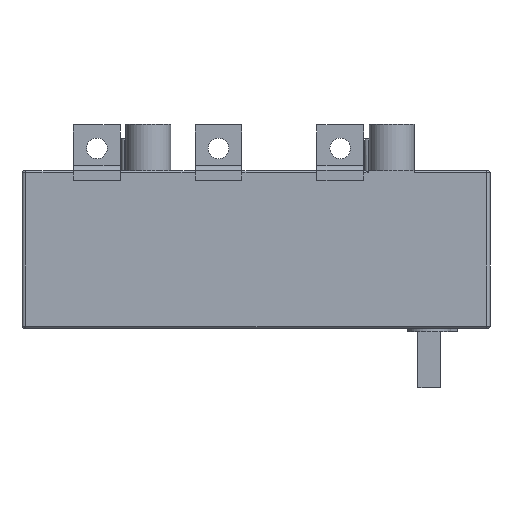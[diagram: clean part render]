
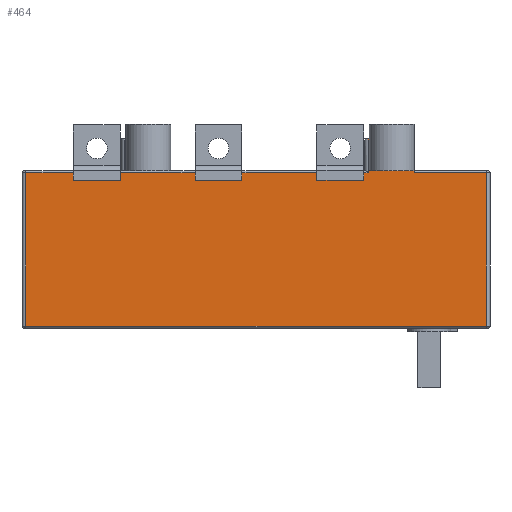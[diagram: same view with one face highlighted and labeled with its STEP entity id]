
A CAD part, front view. The second image highlights one B-rep face of the part: STEP entity #464.
In plain terms, the highlighted planar face has unit normal (0, -1, 0).
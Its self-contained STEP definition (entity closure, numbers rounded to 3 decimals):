
#267=FACE_OUTER_BOUND('',#1573,.T.);
#464=ADVANCED_FACE('',(#267),#565,.T.);
#565=PLANE('',#4003);
#566=LINE('',#5096,#863);
#573=LINE('',#5114,#870);
#575=LINE('',#5120,#872);
#593=LINE('',#5178,#890);
#600=LINE('',#5196,#897);
#602=LINE('',#5205,#899);
#620=LINE('',#5260,#917);
#627=LINE('',#5278,#924);
#629=LINE('',#5287,#926);
#745=LINE('',#5727,#1042);
#754=LINE('',#5818,#1051);
#759=LINE('',#5835,#1056);
#760=LINE('',#5837,#1057);
#782=LINE('',#5961,#1079);
#789=LINE('',#6010,#1086);
#821=LINE('',#6110,#1118);
#827=LINE('',#6122,#1124);
#837=LINE('',#6142,#1134);
#856=LINE('',#6183,#1153);
#858=LINE('',#6187,#1155);
#861=LINE('',#6193,#1158);
#862=LINE('',#6195,#1159);
#863=VECTOR('',#4010,1.);
#870=VECTOR('',#4025,1.);
#872=VECTOR('',#4031,1.);
#890=VECTOR('',#4087,1.);
#897=VECTOR('',#4102,1.);
#899=VECTOR('',#4110,1.);
#917=VECTOR('',#4164,1.);
#924=VECTOR('',#4179,1.);
#926=VECTOR('',#4187,1.);
#1042=VECTOR('',#4625,1.);
#1051=VECTOR('',#4690,1.);
#1056=VECTOR('',#4713,1.);
#1057=VECTOR('',#4716,1.);
#1079=VECTOR('',#4854,1.);
#1086=VECTOR('',#4875,1.);
#1118=VECTOR('',#4975,1.);
#1124=VECTOR('',#4987,1.);
#1134=VECTOR('',#5009,1.);
#1153=VECTOR('',#5064,1.);
#1155=VECTOR('',#5070,1.);
#1158=VECTOR('',#5079,1.);
#1159=VECTOR('',#5082,1.);
#1573=EDGE_LOOP('',(#2546,#2547,#2548,#2549,#2550,#2551,#2552,#2553,#2554,
#2555,#2556,#2557,#2558,#2559,#2560,#2561,#2562,#2563,#2564,#2565,#2566,
#2567));
#2546=ORIENTED_EDGE('',*,*,#2917,.T.);
#2547=ORIENTED_EDGE('',*,*,#2928,.T.);
#2548=ORIENTED_EDGE('',*,*,#3412,.T.);
#2549=ORIENTED_EDGE('',*,*,#2964,.F.);
#2550=ORIENTED_EDGE('',*,*,#2956,.F.);
#2551=ORIENTED_EDGE('',*,*,#2968,.F.);
#2552=ORIENTED_EDGE('',*,*,#3408,.T.);
#2553=ORIENTED_EDGE('',*,*,#3003,.F.);
#2554=ORIENTED_EDGE('',*,*,#2995,.F.);
#2555=ORIENTED_EDGE('',*,*,#3007,.F.);
#2556=ORIENTED_EDGE('',*,*,#3406,.T.);
#2557=ORIENTED_EDGE('',*,*,#3248,.F.);
#2558=ORIENTED_EDGE('',*,*,#3238,.T.);
#2559=ORIENTED_EDGE('',*,*,#3247,.T.);
#2560=ORIENTED_EDGE('',*,*,#3208,.T.);
#2561=ORIENTED_EDGE('',*,*,#3372,.T.);
#2562=ORIENTED_EDGE('',*,*,#3365,.F.);
#2563=ORIENTED_EDGE('',*,*,#3301,.F.);
#2564=ORIENTED_EDGE('',*,*,#3383,.T.);
#2565=ORIENTED_EDGE('',*,*,#3314,.T.);
#2566=ORIENTED_EDGE('',*,*,#3411,.T.);
#2567=ORIENTED_EDGE('',*,*,#2925,.T.);
#2573=VERTEX_POINT('',#5097);
#2574=VERTEX_POINT('',#5098);
#2580=VERTEX_POINT('',#5115);
#2582=VERTEX_POINT('',#5121);
#2603=VERTEX_POINT('',#5179);
#2604=VERTEX_POINT('',#5180);
#2610=VERTEX_POINT('',#5197);
#2613=VERTEX_POINT('',#5204);
#2633=VERTEX_POINT('',#5261);
#2634=VERTEX_POINT('',#5262);
#2640=VERTEX_POINT('',#5279);
#2643=VERTEX_POINT('',#5286);
#2788=VERTEX_POINT('',#5705);
#2789=VERTEX_POINT('',#5725);
#2797=VERTEX_POINT('',#5746);
#2807=VERTEX_POINT('',#5773);
#2811=VERTEX_POINT('',#5815);
#2859=VERTEX_POINT('',#5960);
#2860=VERTEX_POINT('',#5962);
#2867=VERTEX_POINT('',#5992);
#2870=VERTEX_POINT('',#6009);
#2905=VERTEX_POINT('',#6111);
#2917=EDGE_CURVE('',#2573,#2574,#566,.T.);
#2925=EDGE_CURVE('',#2580,#2573,#573,.T.);
#2928=EDGE_CURVE('',#2574,#2582,#575,.T.);
#2956=EDGE_CURVE('',#2603,#2604,#593,.T.);
#2964=EDGE_CURVE('',#2604,#2610,#600,.T.);
#2968=EDGE_CURVE('',#2613,#2603,#602,.T.);
#2995=EDGE_CURVE('',#2633,#2634,#620,.T.);
#3003=EDGE_CURVE('',#2634,#2640,#627,.T.);
#3007=EDGE_CURVE('',#2643,#2633,#629,.T.);
#3208=EDGE_CURVE('',#2788,#2789,#745,.T.);
#3238=EDGE_CURVE('',#2811,#2807,#754,.T.);
#3247=EDGE_CURVE('',#2807,#2788,#759,.T.);
#3248=EDGE_CURVE('',#2811,#2797,#760,.T.);
#3301=EDGE_CURVE('',#2859,#2860,#782,.T.);
#3314=EDGE_CURVE('',#2867,#2870,#789,.T.);
#3365=EDGE_CURVE('',#2860,#2905,#821,.T.);
#3372=EDGE_CURVE('',#2789,#2905,#827,.T.);
#3383=EDGE_CURVE('',#2859,#2867,#837,.T.);
#3406=EDGE_CURVE('',#2643,#2797,#856,.T.);
#3408=EDGE_CURVE('',#2613,#2640,#858,.T.);
#3411=EDGE_CURVE('',#2870,#2580,#861,.T.);
#3412=EDGE_CURVE('',#2582,#2610,#862,.T.);
#4003=AXIS2_PLACEMENT_3D('',#6198,#5087,#5088);
#4010=DIRECTION('',(-1.,0.,0.));
#4025=DIRECTION('',(0.,0.,-1.));
#4031=DIRECTION('',(0.,0.,1.));
#4087=DIRECTION('',(1.,0.,0.));
#4102=DIRECTION('',(0.,0.,1.));
#4110=DIRECTION('',(0.,0.,-1.));
#4164=DIRECTION('',(1.,0.,0.));
#4179=DIRECTION('',(0.,0.,1.));
#4187=DIRECTION('',(0.,0.,-1.));
#4625=DIRECTION('',(-1.,0.,0.));
#4690=DIRECTION('',(1.,0.,0.));
#4713=DIRECTION('',(0.,0.,1.));
#4716=DIRECTION('',(0.,0.,1.));
#4854=DIRECTION('',(0.,0.,-1.));
#4875=DIRECTION('',(0.,0.,-1.));
#4975=DIRECTION('',(1.,0.,0.));
#4987=DIRECTION('',(0.,0.,1.));
#5009=DIRECTION('',(-1.,0.,0.));
#5064=DIRECTION('',(-1.,0.,0.));
#5070=DIRECTION('',(-1.,0.,0.));
#5079=DIRECTION('',(-1.,0.,0.));
#5082=DIRECTION('',(-1.,0.,0.));
#5087=DIRECTION('',(0.,-1.,0.));
#5088=DIRECTION('',(1.,0.,0.));
#5096=CARTESIAN_POINT('',(-12.,-52.5,-5.));
#5097=CARTESIAN_POINT('',(-15.,-52.5,-5.));
#5098=CARTESIAN_POINT('',(-40.,-52.5,-5.));
#5114=CARTESIAN_POINT('',(-15.,-52.5,4.));
#5115=CARTESIAN_POINT('',(-15.,-52.5,-1.));
#5120=CARTESIAN_POINT('',(-40.,-52.5,4.));
#5121=CARTESIAN_POINT('',(-40.,-52.5,-1.));
#5178=CARTESIAN_POINT('',(-12.,-52.5,-5.));
#5179=CARTESIAN_POINT('',(-105.,-52.5,-5.));
#5180=CARTESIAN_POINT('',(-80.,-52.5,-5.));
#5196=CARTESIAN_POINT('',(-80.,-52.5,4.));
#5197=CARTESIAN_POINT('',(-80.,-52.5,-1.));
#5204=CARTESIAN_POINT('',(-105.,-52.5,-1.));
#5205=CARTESIAN_POINT('',(-105.,-52.5,4.));
#5260=CARTESIAN_POINT('',(-12.,-52.5,-5.));
#5261=CARTESIAN_POINT('',(-170.,-52.5,-5.));
#5262=CARTESIAN_POINT('',(-145.,-52.5,-5.));
#5278=CARTESIAN_POINT('',(-145.,-52.5,4.));
#5279=CARTESIAN_POINT('',(-145.,-52.5,-1.));
#5286=CARTESIAN_POINT('',(-170.,-52.5,-1.));
#5287=CARTESIAN_POINT('',(-170.,-52.5,4.));
#5705=CARTESIAN_POINT('',(50.5,-52.5,-1.));
#5725=CARTESIAN_POINT('',(12.,-52.5,-1.));
#5727=CARTESIAN_POINT('',(12.,-52.5,-1.));
#5746=CARTESIAN_POINT('',(-195.5,-52.5,-1.));
#5773=CARTESIAN_POINT('',(50.5,-52.5,-83.));
#5815=CARTESIAN_POINT('',(-195.5,-52.5,-83.));
#5818=CARTESIAN_POINT('',(-12.,-52.5,-83.));
#5835=CARTESIAN_POINT('',(50.5,-52.5,-84.));
#5837=CARTESIAN_POINT('',(-195.5,-52.5,-84.));
#5960=CARTESIAN_POINT('',(-12.,-52.5,17.));
#5961=CARTESIAN_POINT('',(-12.,-52.5,25.));
#5962=CARTESIAN_POINT('',(-12.,-52.5,0.));
#5992=CARTESIAN_POINT('',(-12.5,-52.5,17.));
#6009=CARTESIAN_POINT('',(-12.5,-52.5,-1.));
#6010=CARTESIAN_POINT('',(-12.5,-52.5,4.));
#6110=CARTESIAN_POINT('',(50.5,-52.5,0.));
#6111=CARTESIAN_POINT('',(12.,-52.5,0.));
#6122=CARTESIAN_POINT('',(12.,-52.5,4.));
#6142=CARTESIAN_POINT('',(7.5,-52.5,17.));
#6183=CARTESIAN_POINT('',(-195.5,-52.5,-1.));
#6187=CARTESIAN_POINT('',(-195.5,-52.5,-1.));
#6193=CARTESIAN_POINT('',(-195.5,-52.5,-1.));
#6195=CARTESIAN_POINT('',(-195.5,-52.5,-1.));
#6198=CARTESIAN_POINT('',(-12.,-52.5,4.));
